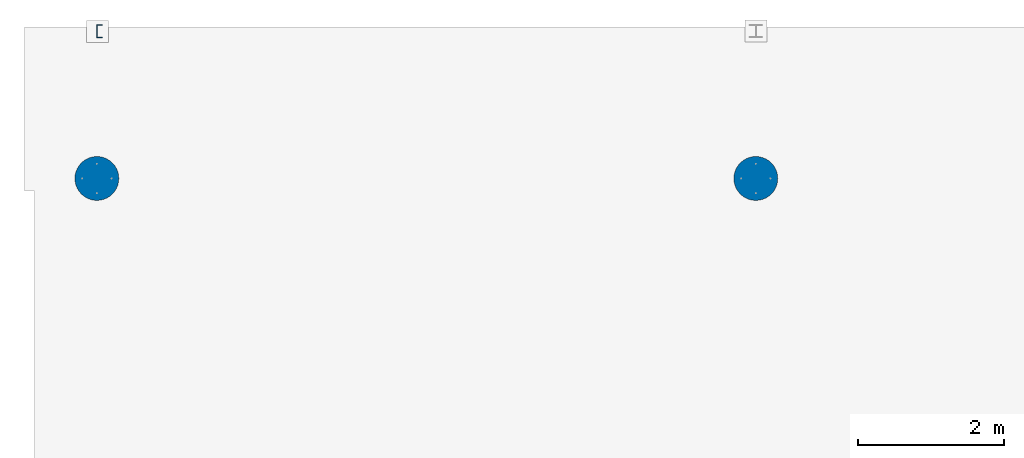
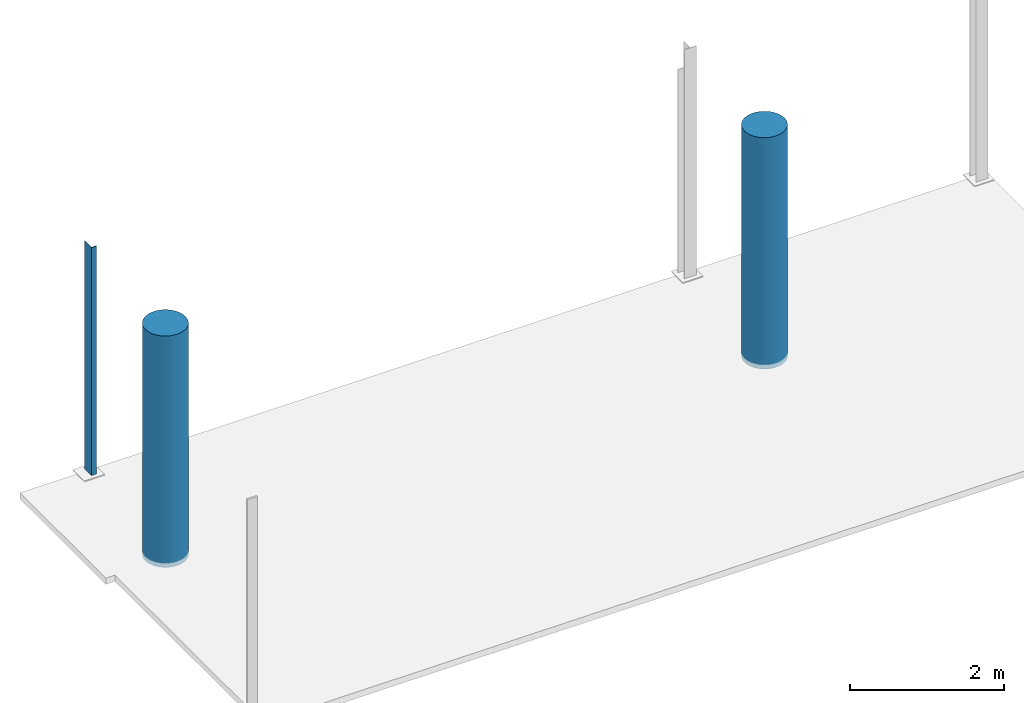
# One storey, part 1 of 6: 3 columns.
"""IFC2X3 building model written with IfcOpenShell, lengths in millimetres."""

from ifc_helpers import new_model, entity, si_unit, converted_unit, derived_unit, direction, frame, origin_with_axes, place, context, subcontext, project, spatial, faceted_brep, material, type_object, element, save


model = new_model("IFC2X3")

# Units and contexts
model_context = context("Model", 3, precision=0.01, world=frame((0.0, 4.29681676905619e-09, 0.0)), true_north=direction((6.12323399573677e-17, 1.0)))
plan_context = context("Plan", 3, precision=0.01, world=frame((0.0, 4.29681676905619e-09, 0.0)), true_north=direction((6.12323399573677e-17, 1.0)))
body_context = subcontext(model_context, "Body", "Model", "MODEL_VIEW")
ifc_project = project(units=[converted_unit("PLANEANGLEUNIT", "DEGREE", entity("IfcPositiveLengthMeasure", 0.0174532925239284), si_unit("PLANEANGLEUNIT", "RADIAN"), dimensions=[0, 0, 0, 0, 0, 0, 0]), si_unit("AREAUNIT", "SQUARE_METRE"), si_unit("LENGTHUNIT", "METRE", prefix="MILLI"), si_unit("MASSUNIT", "GRAM", prefix="KILO"), si_unit("POWERUNIT", "WATT"), si_unit("PRESSUREUNIT", "PASCAL", prefix="KILO"), si_unit("FORCEUNIT", "NEWTON", prefix="KILO"), si_unit("ELECTRICVOLTAGEUNIT", "VOLT"), si_unit("ELECTRICCURRENTUNIT", "AMPERE"), si_unit("THERMODYNAMICTEMPERATUREUNIT", "DEGREE_CELSIUS"), si_unit("TIMEUNIT", "SECOND"), si_unit("VOLUMEUNIT", "CUBIC_METRE"), derived_unit("LINEARVELOCITYUNIT", [(si_unit("LENGTHUNIT", "METRE"), 1), (si_unit("TIMEUNIT", "SECOND"), -1)]), derived_unit("VOLUMETRICFLOWRATEUNIT", [(si_unit("VOLUMEUNIT", "CUBIC_METRE"), 1), (si_unit("TIMEUNIT", "SECOND"), -1)]), derived_unit("THERMALTRANSMITTANCEUNIT", [(si_unit("POWERUNIT", "WATT"), 1), (si_unit("THERMODYNAMICTEMPERATUREUNIT", "KELVIN"), -1), (si_unit("AREAUNIT", "SQUARE_METRE"), -1)]), derived_unit("SOUNDPRESSUREUNIT", [(si_unit("PRESSUREUNIT", "PASCAL"), 1)])], contexts=[model_context, plan_context])

# Site, building, storey
site_placement = place(None, frame((0.0, -4.29681676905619e-09, 0.0), z_axis=(0.0, 0.0, 1.0), x_axis=(1.0, 0.0, 0.0)))
site = spatial("IfcSite", under=ifc_project, at=site_placement, Name="Gardermoen", CompositionType="ELEMENT")
building_placement = place(site_placement, frame((0.0, 4.29681676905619e-09, 0.0), z_axis=(0.0, 0.0, 1.0), x_axis=(1.0, 0.0, 0.0)))
building = spatial("IfcBuilding", under=site, at=building_placement, Name="THO", CompositionType="ELEMENT")
storey_placement = place(building_placement, origin_with_axes())
storey = spatial("IfcBuildingStorey", under=building, at=storey_placement, Name="Nivå F", CompositionType="ELEMENT", Elevation=0.0)

# Columns
ifc_material_1 = material(Name="STEEL/S355")
column_type_1 = type_object("IfcColumnType", Name="UPE180", PredefinedType="NOTDEFINED")
column_1_placement = place(storey_placement, frame((1117037.50610594, 468410.000086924, 210145.0), z_axis=(0.0, -1.0, 0.0), x_axis=(0.0, 0.0, 1.0)))
element("IfcColumn", 1, at=column_1_placement, inside=storey, type_object=column_type_1, material=ifc_material_1, Name="STÅLSØYLE", ObjectType="UPE180", context=body_context, shape_type="Brep", body=[
    faceted_brep([(3620.0, 30.5023002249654, -90.0), (3620.0, 30.5, -79.5), (3230.0, 30.5, -79.5), (3230.00001376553, 30.5023002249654, -90.0), (3230.0, -37.5, -90.0), (3230.0, -37.5, -79.5), (0.0, -37.5, 79.5), (0.0, 30.5, 79.5), (3620.0, 30.5, 79.5), (3620.0, -37.5, 79.5), (0.0, -37.5, 90.0), (3620.0, -37.5, 90.0), (0.0, 37.5, 90.0), (3620.0, 37.5, 90.0), (0.0, 37.5, -90.0), (3620.0, 37.5, -90.0), (0.0, -37.5, -90.0), (0.0, -37.5, -79.5), (0.0, 30.5, -79.5), (3620.0, 30.5, -63.9993823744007)], [[[0, 1, 2, 3]], [[4, 3, 2, 5]], [[6, 7, 8, 9]], [[10, 6, 9, 11]], [[12, 10, 11, 13]], [[14, 12, 13, 15]], [[16, 17, 18, 7, 6, 10, 12, 14]], [[17, 16, 4, 5]], [[18, 17, 5, 2]], [[7, 18, 2, 1, 19, 8]], [[15, 13, 11, 9, 8, 19, 1, 0]], [[16, 14, 15, 0, 3, 4]]]),
])
ifc_material_2 = material(Name="CONCRETE/C45/55")
column_type_2 = type_object("IfcColumnType", Name="D600", PredefinedType="NOTDEFINED")
column_2_placement = place(storey_placement, frame((1126000.0, 466400.0, 210060.0), z_axis=(0.0, 1.0, 0.0), x_axis=(0.0, 0.0, 1.0)))
element("IfcColumn", 2, at=column_2_placement, inside=storey, type_object=column_type_2, material=ifc_material_2, Name="PREFABSØYLE", ObjectType="D600", context=body_context, shape_type="Brep", body=[
    faceted_brep([(0.0, -300.0, 0.0), (0.0, -296.306502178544, -46.930339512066), (3675.0, -296.306502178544, -46.930339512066), (3675.0, -300.0, 0.0), (0.0, -285.316954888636, -92.7050983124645), (3675.0, -285.31695488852, -92.7050983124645), (0.0, -267.301957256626, -136.197149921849), (3675.0, -267.30195725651, -136.197149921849), (0.0, -242.705098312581, -176.335575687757), (3675.0, -242.705098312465, -176.335575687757), (0.0, -212.132034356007, -212.132034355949), (3675.0, -212.132034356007, -212.132034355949), (0.0, -176.335575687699, -242.705098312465), (3675.0, -176.335575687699, -242.705098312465), (0.0, -136.197149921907, -267.30195725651), (3675.0, -136.197149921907, -267.30195725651), (0.0, -92.705098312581, -285.31695488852), (3675.0, -92.7050983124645, -285.31695488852), (0.0, -46.9303395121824, -296.306502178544), (3675.0, -46.930339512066, -296.306502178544), (0.0, 0.0, -300.0), (3675.0, 0.0, -300.0), (0.0, 46.9303395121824, -296.306502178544), (3675.0, 46.930339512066, -296.306502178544), (0.0, 92.705098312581, -285.31695488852), (3675.0, 92.7050983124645, -285.31695488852), (0.0, 136.197149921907, -267.30195725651), (3675.0, 136.197149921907, -267.30195725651), (0.0, 176.335575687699, -242.705098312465), (3675.0, 176.335575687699, -242.705098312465), (0.0, 212.132034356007, -212.132034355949), (3675.0, 212.132034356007, -212.132034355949), (0.0, 242.705098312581, -176.335575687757), (3675.0, 242.705098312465, -176.335575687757), (0.0, 267.301957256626, -136.197149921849), (3675.0, 267.30195725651, -136.197149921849), (0.0, 285.316954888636, -92.7050983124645), (3675.0, 285.31695488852, -92.7050983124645), (0.0, 296.306502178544, -46.930339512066), (3675.0, 296.306502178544, -46.930339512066), (0.0, 300.0, 0.0), (3675.0, 300.0, 0.0), (0.0, 296.306502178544, 46.930339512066), (3675.0, 296.306502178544, 46.930339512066), (0.0, 285.316954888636, 92.7050983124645), (3675.0, 285.31695488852, 92.7050983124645), (0.0, 267.301957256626, 136.197149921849), (3675.0, 267.30195725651, 136.197149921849), (0.0, 242.705098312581, 176.335575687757), (3675.0, 242.705098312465, 176.335575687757), (0.0, 212.132034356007, 212.132034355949), (3675.0, 212.132034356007, 212.132034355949), (0.0, 176.335575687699, 242.705098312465), (3675.0, 176.335575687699, 242.705098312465), (0.0, 136.197149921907, 267.30195725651), (3675.0, 136.197149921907, 267.30195725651), (0.0, 92.705098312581, 285.31695488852), (3675.0, 92.7050983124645, 285.31695488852), (0.0, 46.9303395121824, 296.306502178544), (3675.0, 46.930339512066, 296.306502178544), (0.0, 0.0, 300.0), (3675.0, 0.0, 300.0), (0.0, -46.9303395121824, 296.306502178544), (3675.0, -46.930339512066, 296.306502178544), (0.0, -92.705098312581, 285.31695488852), (3675.0, -92.7050983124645, 285.31695488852), (0.0, -136.197149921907, 267.30195725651), (3675.0, -136.197149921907, 267.30195725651), (0.0, -176.335575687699, 242.705098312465), (3675.0, -176.335575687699, 242.705098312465), (0.0, -212.132034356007, 212.132034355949), (3675.0, -212.132034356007, 212.132034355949), (0.0, -242.705098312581, 176.335575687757), (3675.0, -242.705098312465, 176.335575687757), (0.0, -267.301957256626, 136.197149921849), (3675.0, -267.30195725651, 136.197149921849), (0.0, -285.316954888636, 92.7050983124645), (3675.0, -285.31695488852, 92.7050983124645), (0.0, -296.306502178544, 46.930339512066), (3675.0, -296.306502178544, 46.930339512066)], [[[0, 1, 2, 3]], [[1, 4, 5, 2]], [[4, 6, 7, 5]], [[6, 8, 9, 7]], [[8, 10, 11, 9]], [[10, 12, 13, 11]], [[12, 14, 15, 13]], [[14, 16, 17, 15]], [[16, 18, 19, 17]], [[18, 20, 21, 19]], [[20, 22, 23, 21]], [[22, 24, 25, 23]], [[24, 26, 27, 25]], [[26, 28, 29, 27]], [[28, 30, 31, 29]], [[30, 32, 33, 31]], [[32, 34, 35, 33]], [[34, 36, 37, 35]], [[36, 38, 39, 37]], [[38, 40, 41, 39]], [[40, 42, 43, 41]], [[42, 44, 45, 43]], [[44, 46, 47, 45]], [[46, 48, 49, 47]], [[48, 50, 51, 49]], [[50, 52, 53, 51]], [[52, 54, 55, 53]], [[54, 56, 57, 55]], [[56, 58, 59, 57]], [[58, 60, 61, 59]], [[60, 62, 63, 61]], [[62, 64, 65, 63]], [[64, 66, 67, 65]], [[66, 68, 69, 67]], [[68, 70, 71, 69]], [[70, 72, 73, 71]], [[72, 74, 75, 73]], [[74, 76, 77, 75]], [[76, 78, 79, 77]], [[78, 0, 3, 79]], [[5, 7, 9, 11, 13, 15, 17, 19, 21, 23, 25, 27, 29, 31, 33, 35, 37, 39, 41, 43, 45, 47, 49, 51, 53, 55, 57, 59, 61, 63, 65, 67, 69, 71, 73, 75, 77, 79, 3, 2]], [[78, 76, 74, 72, 70, 68, 66, 64, 62, 60, 58, 56, 54, 52, 50, 48, 46, 44, 42, 40, 38, 36, 34, 32, 30, 28, 26, 24, 22, 20, 18, 16, 14, 12, 10, 8, 6, 4, 1, 0]]]),
])
column_3_placement = place(storey_placement, frame((1117000.0, 466400.0, 210060.0), z_axis=(0.0, 1.0, 0.0), x_axis=(0.0, 0.0, 1.0)))
element("IfcColumn", 3, at=column_3_placement, inside=storey, type_object=column_type_2, material=ifc_material_2, Name="PREFABSØYLE", ObjectType="D600", context=body_context, shape_type="Brep", body=[
    faceted_brep([(0.0, -300.0, 0.0), (0.0, -296.306502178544, -46.930339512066), (3675.0, -296.306502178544, -46.930339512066), (3675.0, -300.0, 0.0), (0.0, -285.316954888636, -92.7050983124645), (3675.0, -285.31695488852, -92.7050983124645), (0.0, -267.301957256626, -136.197149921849), (3675.0, -267.30195725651, -136.197149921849), (0.0, -242.705098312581, -176.335575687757), (3675.0, -242.705098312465, -176.335575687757), (0.0, -212.132034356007, -212.132034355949), (3675.0, -212.132034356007, -212.132034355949), (0.0, -176.335575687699, -242.705098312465), (3675.0, -176.335575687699, -242.705098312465), (0.0, -136.197149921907, -267.30195725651), (3675.0, -136.197149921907, -267.30195725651), (0.0, -92.705098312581, -285.31695488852), (3675.0, -92.7050983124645, -285.31695488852), (0.0, -46.9303395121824, -296.306502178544), (3675.0, -46.930339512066, -296.306502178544), (0.0, 0.0, -300.0), (3675.0, 0.0, -300.0), (0.0, 46.9303395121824, -296.306502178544), (3675.0, 46.930339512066, -296.306502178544), (0.0, 92.705098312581, -285.31695488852), (3675.0, 92.7050983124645, -285.31695488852), (0.0, 136.197149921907, -267.30195725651), (3675.0, 136.197149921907, -267.30195725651), (0.0, 176.335575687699, -242.705098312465), (3675.0, 176.335575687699, -242.705098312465), (0.0, 212.132034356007, -212.132034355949), (3675.0, 212.132034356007, -212.132034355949), (0.0, 242.705098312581, -176.335575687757), (3675.0, 242.705098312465, -176.335575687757), (0.0, 267.301957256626, -136.197149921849), (3675.0, 267.30195725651, -136.197149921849), (0.0, 285.316954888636, -92.7050983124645), (3675.0, 285.31695488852, -92.7050983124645), (0.0, 296.306502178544, -46.930339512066), (3675.0, 296.306502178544, -46.930339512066), (0.0, 300.0, 0.0), (3675.0, 300.0, 0.0), (0.0, 296.306502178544, 46.930339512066), (3675.0, 296.306502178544, 46.930339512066), (0.0, 285.316954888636, 92.7050983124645), (3675.0, 285.31695488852, 92.7050983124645), (0.0, 267.301957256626, 136.197149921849), (3675.0, 267.30195725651, 136.197149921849), (0.0, 242.705098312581, 176.335575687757), (3675.0, 242.705098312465, 176.335575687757), (0.0, 212.132034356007, 212.132034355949), (3675.0, 212.132034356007, 212.132034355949), (0.0, 176.335575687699, 242.705098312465), (3675.0, 176.335575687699, 242.705098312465), (0.0, 136.197149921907, 267.30195725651), (3675.0, 136.197149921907, 267.30195725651), (0.0, 92.705098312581, 285.31695488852), (3675.0, 92.7050983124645, 285.31695488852), (0.0, 46.9303395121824, 296.306502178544), (3675.0, 46.930339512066, 296.306502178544), (0.0, 0.0, 300.0), (3675.0, 0.0, 300.0), (0.0, -46.9303395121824, 296.306502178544), (3675.0, -46.930339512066, 296.306502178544), (0.0, -92.705098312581, 285.31695488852), (3675.0, -92.7050983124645, 285.31695488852), (0.0, -136.197149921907, 267.30195725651), (3675.0, -136.197149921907, 267.30195725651), (0.0, -176.335575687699, 242.705098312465), (3675.0, -176.335575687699, 242.705098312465), (0.0, -212.132034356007, 212.132034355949), (3675.0, -212.132034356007, 212.132034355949), (0.0, -242.705098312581, 176.335575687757), (3675.0, -242.705098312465, 176.335575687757), (0.0, -267.301957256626, 136.197149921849), (3675.0, -267.30195725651, 136.197149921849), (0.0, -285.316954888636, 92.7050983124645), (3675.0, -285.31695488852, 92.7050983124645), (0.0, -296.306502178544, 46.930339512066), (3675.0, -296.306502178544, 46.930339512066)], [[[0, 1, 2, 3]], [[1, 4, 5, 2]], [[4, 6, 7, 5]], [[6, 8, 9, 7]], [[8, 10, 11, 9]], [[10, 12, 13, 11]], [[12, 14, 15, 13]], [[14, 16, 17, 15]], [[16, 18, 19, 17]], [[18, 20, 21, 19]], [[20, 22, 23, 21]], [[22, 24, 25, 23]], [[24, 26, 27, 25]], [[26, 28, 29, 27]], [[28, 30, 31, 29]], [[30, 32, 33, 31]], [[32, 34, 35, 33]], [[34, 36, 37, 35]], [[36, 38, 39, 37]], [[38, 40, 41, 39]], [[40, 42, 43, 41]], [[42, 44, 45, 43]], [[44, 46, 47, 45]], [[46, 48, 49, 47]], [[48, 50, 51, 49]], [[50, 52, 53, 51]], [[52, 54, 55, 53]], [[54, 56, 57, 55]], [[56, 58, 59, 57]], [[58, 60, 61, 59]], [[60, 62, 63, 61]], [[62, 64, 65, 63]], [[64, 66, 67, 65]], [[66, 68, 69, 67]], [[68, 70, 71, 69]], [[70, 72, 73, 71]], [[72, 74, 75, 73]], [[74, 76, 77, 75]], [[76, 78, 79, 77]], [[78, 0, 3, 79]], [[5, 7, 9, 11, 13, 15, 17, 19, 21, 23, 25, 27, 29, 31, 33, 35, 37, 39, 41, 43, 45, 47, 49, 51, 53, 55, 57, 59, 61, 63, 65, 67, 69, 71, 73, 75, 77, 79, 3, 2]], [[78, 76, 74, 72, 70, 68, 66, 64, 62, 60, 58, 56, 54, 52, 50, 48, 46, 44, 42, 40, 38, 36, 34, 32, 30, 28, 26, 24, 22, 20, 18, 16, 14, 12, 10, 8, 6, 4, 1, 0]]]),
])

save(model, "model.ifc")
